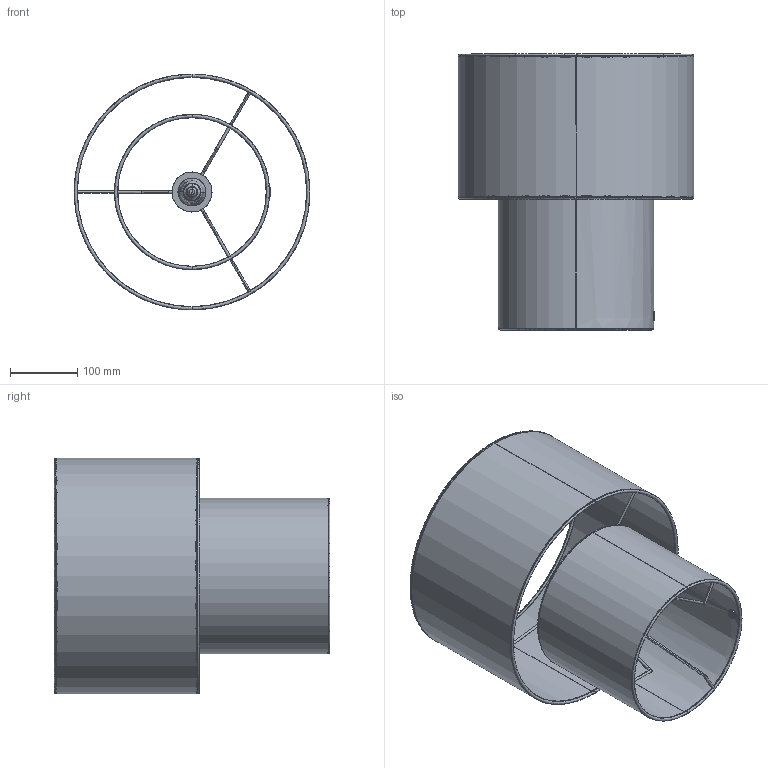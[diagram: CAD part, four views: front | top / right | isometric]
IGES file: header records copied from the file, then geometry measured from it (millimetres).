
Start section: SolidWorks IGES file using analytic representation for surfaces
Global section: file name: C:\Users\anna.bielnik\Desktop\biurkowa b.IGS; native system: SolidWorks 2025; preprocessor: SolidWorks 2025; author: anna.bielnik; date: 260415.113224; units: millimetre
Bounding box: 351 x 410.5 x 351 mm (x, y, z)
Surface area: 931873.5 mm2 (no closed solid volume)
Topology: 0 solids, 0 shells, 198 faces, 2788 edges, 2786 vertices
Faces by surface type: bspline 114, revolution 84
